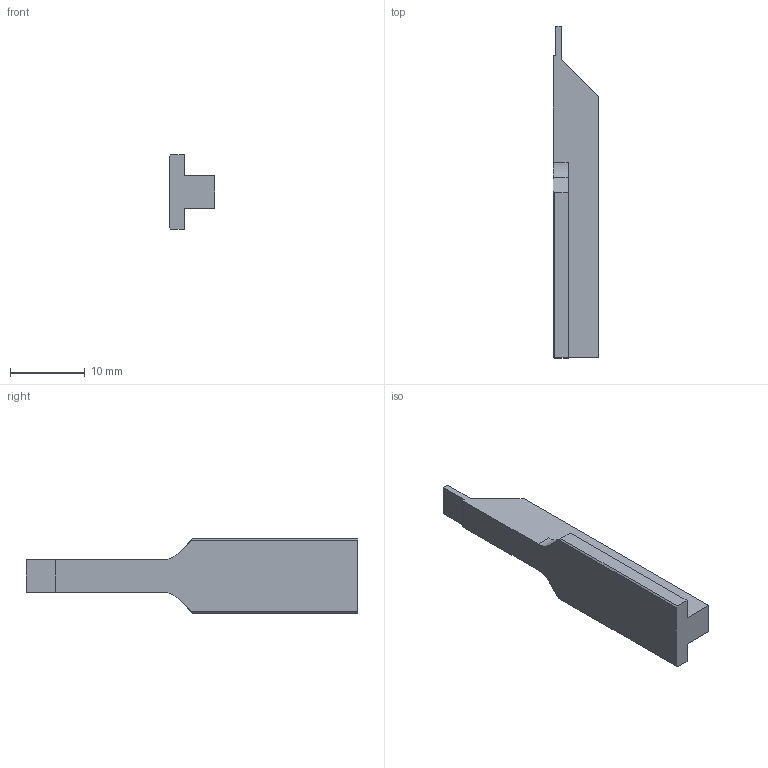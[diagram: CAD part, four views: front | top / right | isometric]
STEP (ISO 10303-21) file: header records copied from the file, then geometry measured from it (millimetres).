
FILE_DESCRIPTION (( 'STEP AP214' ), '1' );
FILE_NAME ('MBCO-00-03-006 煦棠芛.STEP', '2026-08-19T10:38:08', ( '' ), ( '' ), 'SwSTEP 2.0', 'SolidWorks 2022', '' );
FILE_SCHEMA (( 'AUTOMOTIVE_DESIGN' ));
Length unit declared in the file: millimetre
Products named in the file (1): MBCO-00-03-006 分磁头
Bounding box: 6.1 x 44.5 x 10 mm (x, y, z)
Volume: 1250 mm3; surface area: 1257.5 mm2
Topology: 1 solids, 1 shells, 49 faces, 155 edges, 101 vertices
Faces by surface type: plane 28, cylinder 15, cone 6
Entity records: 1905 total; most frequent: CARTESIAN_POINT 474, ORIENTED_EDGE 306, DIRECTION 273, EDGE_CURVE 153, VERTEX_POINT 101, VECTOR 93, LINE 93, AXIS2_PLACEMENT_3D 90
